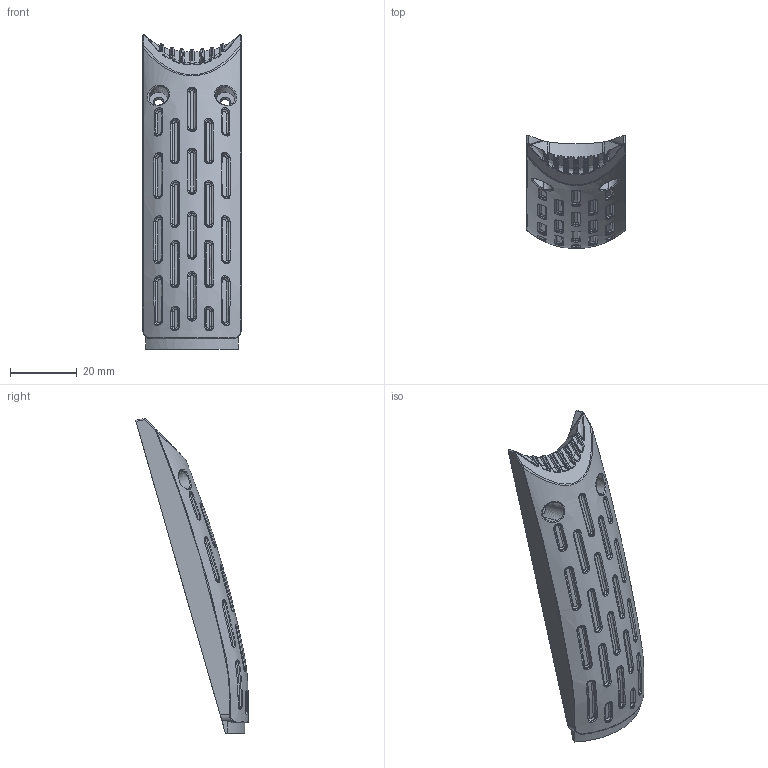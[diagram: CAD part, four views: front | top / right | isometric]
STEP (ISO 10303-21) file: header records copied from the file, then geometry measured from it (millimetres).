
FILE_DESCRIPTION(/* description */ (''),/* implementation_level */ '2;1');
FILE_NAME(/* name */ 'LAST_Grip 03.stp',/* time_stamp */ '2025-11-19T23:09:07+09:00',/* author */ (''),/* organization */ (''),/* preprocessor_version */ 'ST-DEVELOPER v11',/* originating_system */ 'SIEMENS PLM Software NX 7.5',/* authorisation */ '');
FILE_SCHEMA (('CONFIG_CONTROL_DESIGN'));
Length unit declared in the file: millimetre
Products named in the file (1): gyun8741ysex
Bounding box: 29.53 x 33.85 x 94.64 mm (x, y, z)
Volume: 10444.8 mm3; surface area: 9152.1 mm2
Topology: 1 solids, 1 shells, 458 faces, 1079 edges, 643 vertices
Faces by surface type: bspline 302, plane 63, extrusion 52, cylinder 39, sphere 2
Entity records: 25466 total; most frequent: CARTESIAN_POINT 17122, ORIENTED_EDGE 2148, EDGE_CURVE 1074, DIRECTION 1028, B_SPLINE_CURVE_WITH_KNOTS 658, VERTEX_POINT 640, EDGE_LOOP 484, ADVANCED_FACE 458
